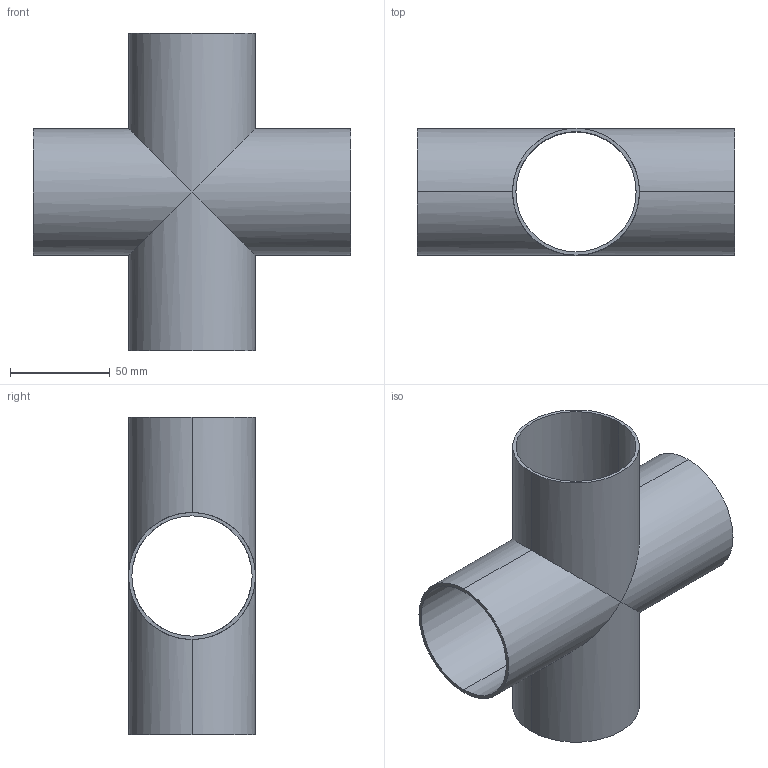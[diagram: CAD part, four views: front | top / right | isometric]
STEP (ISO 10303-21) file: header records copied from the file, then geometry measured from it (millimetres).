
FILE_DESCRIPTION (( 'STEP AP214' ), '1' );
FILE_NAME ('TE9WWWW6L2.5-...STEP', '2016-05-22T04:56:53', ( 'eran' ), ( '' ), 'SwSTEP 2.0', 'SolidWorks 2016', '' );
FILE_SCHEMA (( 'AUTOMOTIVE_DESIGN' ));
Length unit declared in the file: millimetre
Products named in the file (1): TE9WWWW6L2.5-..
Bounding box: 158.75 x 63.5 x 158.75 mm (x, y, z)
Volume: 76584.6 mm3; surface area: 94042.3 mm2
Topology: 1 solids, 1 shells, 20 faces, 48 edges, 28 vertices
Faces by surface type: cylinder 16, plane 4
Entity records: 618 total; most frequent: CARTESIAN_POINT 145, ORIENTED_EDGE 96, DIRECTION 90, EDGE_CURVE 48, AXIS2_PLACEMENT_3D 37, VERTEX_POINT 28, EDGE_LOOP 24, FACE_OUTER_BOUND 20
